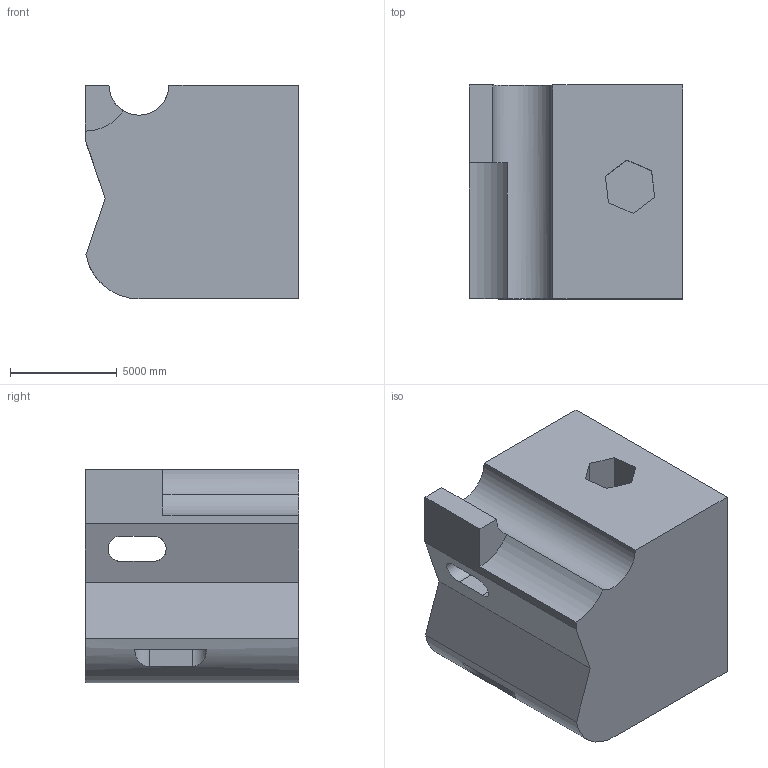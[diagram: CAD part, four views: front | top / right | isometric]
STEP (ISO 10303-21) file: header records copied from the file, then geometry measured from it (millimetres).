
FILE_DESCRIPTION (( 'STEP AP203' ), '1' );
FILE_NAME ('330.STEP', '2022-09-07T12:55:38', ( 'user' ), ( '' ), 'SwSTEP 2.0', 'SolidWorks 2021', '' );
FILE_SCHEMA (( 'CONFIG_CONTROL_DESIGN' ));
Length unit declared in the file: centimetre
Products named in the file (1): 330
Bounding box: 10000 x 10000 x 10000 mm (x, y, z)
Volume: 851891508200.6 mm3; surface area: 694802316 mm2
Topology: 1 solids, 1 shells, 28 faces, 75 edges, 50 vertices
Faces by surface type: plane 21, cylinder 7
Entity records: 1079 total; most frequent: CARTESIAN_POINT 294, ORIENTED_EDGE 150, DIRECTION 138, EDGE_CURVE 75, VECTOR 58, LINE 58, VERTEX_POINT 50, AXIS2_PLACEMENT_3D 40
